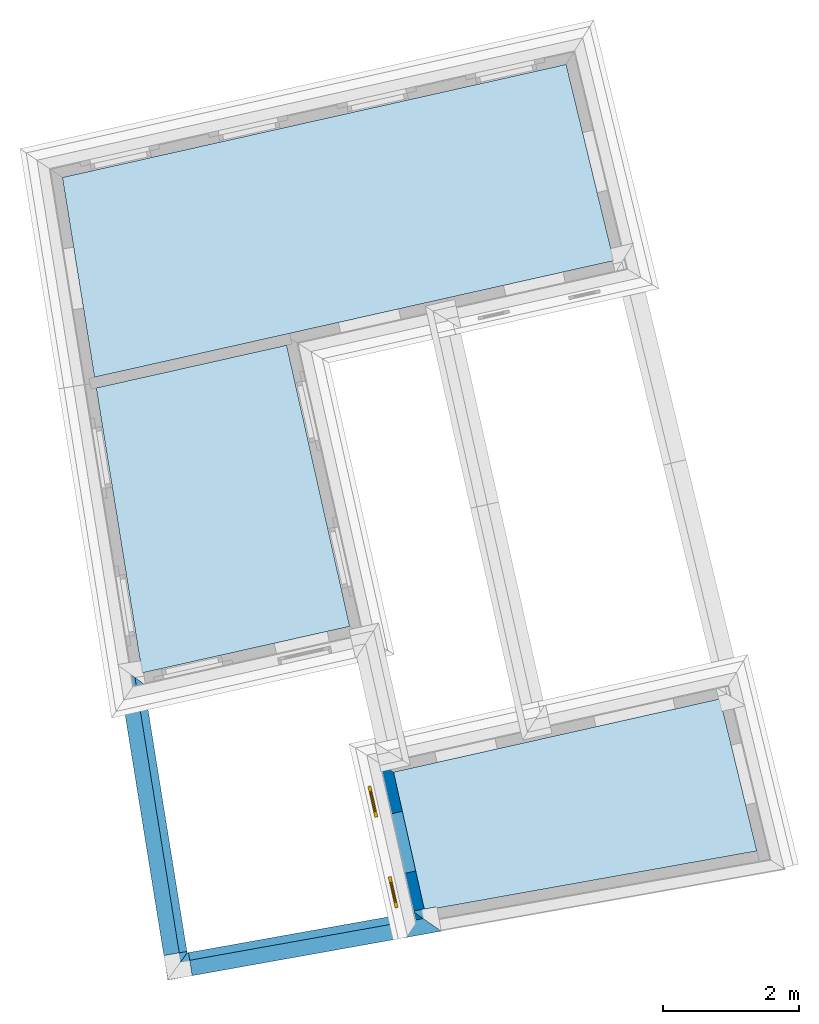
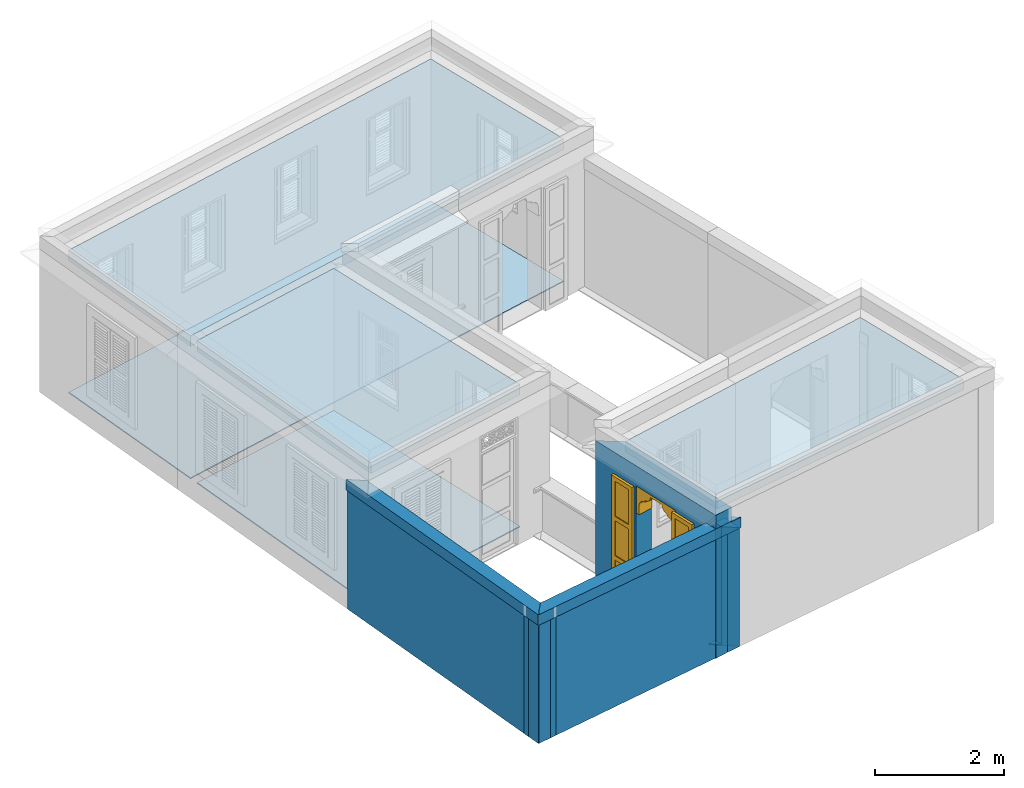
# One storey, part 1 of 15: 8 walls, 5 slabs, 1 door, 1 opening.
"""IFC4 building model written with IfcOpenShell, lengths in metres."""

import ifcopenshell
import ifcopenshell.guid

model = None  # the IFC model being written
_history = None  # IfcOwnerHistory: only IFC2X3 demands one
_inside = {}  # id of a spatial element -> (the spatial element, [elements in it])
_under = {}  # id of a project, library or spatial element -> (it, [spatial elements below it])
_declared = {}  # id of a project -> (the project, [libraries it declares])
_typed = {}  # id of a type object -> (the type object, [elements of that type])
_made_of = {}  # id of a material, layer set ... -> (it, [elements and type objects made of it])


def new_model(schema):
    """Start an empty IFC model of exactly this schema.

    Asked for "IFC4X3", IfcOpenShell would pick the latest addendum, in which some entities
    have other attributes; the version numbers below select the first issue.
    IFC2X3 requires an IfcOwnerHistory on every rooted entity: one is made here for all.
    """
    global model, _history
    if schema == "IFC4X3":
        model = ifcopenshell.file(schema_version=(4, 3, 0, 0))
    else:
        model = ifcopenshell.file(schema=schema)
    _inside.clear()
    _under.clear()
    _declared.clear()
    _typed.clear()
    _made_of.clear()
    _history = None
    if model.schema == "IFC2X3":
        org = make("IfcOrganization", Name="unknown")
        user = make(
            "IfcPersonAndOrganization",
            ThePerson=make("IfcPerson", FamilyName="unknown"),
            TheOrganization=org,
        )
        app = make(
            "IfcApplication",
            ApplicationDeveloper=org,
            Version="unknown",
            ApplicationFullName="unknown",
            ApplicationIdentifier="unknown",
        )
        _history = make(
            "IfcOwnerHistory",
            OwningUser=user,
            OwningApplication=app,
            ChangeAction="ADDED",
            CreationDate=0,
        )
    return model


def make(cls, **values):
    """One entity of the class cls with the attributes given. An attribute that is None is left unset."""
    return model.create_entity(
        cls, **{name: value for name, value in values.items() if value is not None}
    )


def rooted(cls, **values):
    """An entity with a GlobalId (a new one), such as an element, a storey or a relation."""
    return make(cls, GlobalId=ifcopenshell.guid.new(), OwnerHistory=_history, **values)


def si_unit(unit_type, name, prefix=None):
    """IfcSIUnit, for example si_unit("LENGTHUNIT", "METRE", prefix="MILLI")."""
    return make("IfcSIUnit", UnitType=unit_type, Prefix=prefix, Name=name)


def assignment(units):
    """IfcUnitAssignment: the units of a project."""
    return None if units is None else make("IfcUnitAssignment", Units=units)


def point(xyz):
    """IfcCartesianPoint."""
    return None if xyz is None else make("IfcCartesianPoint", Coordinates=xyz)


def direction(xyz):
    """IfcDirection."""
    return None if xyz is None else make("IfcDirection", DirectionRatios=xyz)


def frame(location, z_axis=None, x_axis=None):
    """IfcAxis2Placement3D, a coordinate frame: its origin and axes. An axis left out is left unset."""
    return make(
        "IfcAxis2Placement3D",
        Location=point(location),
        Axis=direction(z_axis),
        RefDirection=direction(x_axis),
    )


def origin():
    """The frame at (0, 0, 0) with its axes left unset."""
    return frame((0.0, 0.0, 0.0))


def origin_with_axes():
    """The frame at (0, 0, 0) with the z axis (0, 0, 1) and the x axis (1, 0, 0) written out."""
    return frame((0.0, 0.0, 0.0), z_axis=(0.0, 0.0, 1.0), x_axis=(1.0, 0.0, 0.0))


def place(relative_to, where):
    """IfcLocalPlacement: puts the frame where relative to a parent placement (None: the world)."""
    return make(
        "IfcLocalPlacement", PlacementRelTo=relative_to, RelativePlacement=where
    )


def context(
    kind, dimensions, precision=None, world=None, true_north=None, identifier=None
):
    """IfcGeometricRepresentationContext, for example the 3D "Model" context."""
    return make(
        "IfcGeometricRepresentationContext",
        ContextIdentifier=identifier,
        ContextType=kind,
        CoordinateSpaceDimension=dimensions,
        Precision=precision,
        WorldCoordinateSystem=world,
        TrueNorth=true_north,
    )


def subcontext(parent, identifier, kind, view, scale=None):
    """IfcGeometricRepresentationSubContext, for example "Body" below "Model"."""
    return make(
        "IfcGeometricRepresentationSubContext",
        ContextIdentifier=identifier,
        ContextType=kind,
        ParentContext=parent,
        TargetScale=scale,
        TargetView=view,
    )


def project(units=None, contexts=None):
    """IfcProject with its units and contexts."""
    return rooted(
        "IfcProject",
        Name="project",
        RepresentationContexts=contexts,
        UnitsInContext=assignment(units),
    )


def spatial(cls, under=None, at=None, **own):
    """A site, building, storey or space (cls), placed at a placement, below another one or the project."""
    s = rooted(cls, ObjectPlacement=at, **own)
    if under is not None:
        _under.setdefault(under.id(), (under, []))[1].append(s)
    return s


def polyline(points):
    """IfcPolyline through the points."""
    return make("IfcPolyline", Points=[point(p) for p in points])


def outline(outer, holes=None, kind="AREA"):
    """IfcArbitraryClosedProfileDef: a profile drawn as a closed curve; with holes, ...WithVoids."""
    if holes is None:
        return make("IfcArbitraryClosedProfileDef", ProfileType=kind, OuterCurve=outer)
    return make(
        "IfcArbitraryProfileDefWithVoids",
        ProfileType=kind,
        OuterCurve=outer,
        InnerCurves=holes,
    )


def extrude(swept, where, along, depth):
    """IfcExtrudedAreaSolid: the profile swept, set in the frame where, extruded along a direction by depth."""
    return make(
        "IfcExtrudedAreaSolid",
        SweptArea=swept,
        Position=where,
        ExtrudedDirection=direction(along),
        Depth=depth,
    )


def clip(a, b, op="DIFFERENCE"):
    """IfcBooleanClippingResult: the solid a cut by the half space b."""
    return make(
        "IfcBooleanClippingResult", Operator=op, FirstOperand=a, SecondOperand=b
    )


def halfspace(plane, agree):
    """IfcHalfSpaceSolid: all space on one side of the plane z = 0 of the frame plane."""
    return make(
        "IfcHalfSpaceSolid",
        BaseSurface=make("IfcPlane", Position=plane),
        AgreementFlag=agree,
    )


def faces_of(points, faces, orient=None, outer=None):
    """IfcFace entities. A face is a list of loops; a loop is a list of indices into points, from 0.

    orient and outer hold one flag for each loop. By default every Orientation is true, the
    first loop of a face is its IfcFaceOuterBound and the others are IfcFaceBound.
    """
    made = []
    for i, loops in enumerate(faces):
        bounds = []
        for j, loop in enumerate(loops):
            is_outer = j == 0 if outer is None else outer[i][j]
            bounds.append(
                make(
                    "IfcFaceOuterBound" if is_outer else "IfcFaceBound",
                    Bound=make("IfcPolyLoop", Polygon=[points[k] for k in loop]),
                    Orientation=True if orient is None else orient[i][j],
                )
            )
        made.append(make("IfcFace", Bounds=bounds))
    return made


def faceted_brep(points, faces, orient=None, outer=None, voids=None):
    """IfcFacetedBrep: a solid bounded by flat faces; with voids (closed shells), ...WithVoids."""
    shared = [point(p) for p in points]
    hull = make("IfcClosedShell", CfsFaces=faces_of(shared, faces, orient, outer))
    if voids is None:
        return make("IfcFacetedBrep", Outer=hull)
    return make(
        "IfcFacetedBrepWithVoids",
        Outer=hull,
        Voids=[
            make(cls, CfsFaces=faces_of(shared, fs, o, b)) for cls, fs, o, b in voids
        ],
    )


def shape(context_of_items, identifier, shape_type, items):
    """IfcShapeRepresentation: the items that make up one representation, for example the "Body"."""
    return make(
        "IfcShapeRepresentation",
        ContextOfItems=context_of_items,
        RepresentationIdentifier=identifier,
        RepresentationType=shape_type,
        Items=items,
    )


def source(mapping_origin, context_of_items, identifier, shape_type, items):
    """IfcRepresentationMap: a shape defined once, which mapped items show again and again."""
    return make(
        "IfcRepresentationMap",
        MappingOrigin=mapping_origin,
        MappedRepresentation=shape(context_of_items, identifier, shape_type, items),
    )


def transform(
    local_origin,
    x_axis=None,
    y_axis=None,
    z_axis=None,
    scale=None,
    scale2=None,
    scale3=None,
    uniform=True,
):
    """IfcCartesianTransformationOperator3D, or its non-uniform kind. x_axis, y_axis, z_axis: its Axis1, 2, 3."""
    if uniform:
        return make(
            "IfcCartesianTransformationOperator3D",
            Axis1=direction(x_axis),
            Axis2=direction(y_axis),
            LocalOrigin=point(local_origin),
            Scale=scale,
            Axis3=direction(z_axis),
        )
    return make(
        "IfcCartesianTransformationOperator3DnonUniform",
        Axis1=direction(x_axis),
        Axis2=direction(y_axis),
        LocalOrigin=point(local_origin),
        Scale=scale,
        Axis3=direction(z_axis),
        Scale2=scale2,
        Scale3=scale3,
    )


def mapped(mapping_source, mapping_target):
    """IfcMappedItem: shows the shape of a source again, moved by a transform."""
    return make(
        "IfcMappedItem", MappingSource=mapping_source, MappingTarget=mapping_target
    )


def material(Name=None, Category=None):
    """IfcMaterial."""
    return make("IfcMaterial", Name=Name, Category=Category)


def layer(
    of_material, thickness, ventilated=None, Name=None, Category=None, Priority=None
):
    """IfcMaterialLayer: one layer of a wall or slab, of a material (None: an air gap)."""
    return make(
        "IfcMaterialLayer",
        Material=of_material,
        LayerThickness=thickness,
        IsVentilated=ventilated,
        Name=Name,
        Category=Category,
        Priority=Priority,
    )


def layer_set(layers, Name=None):
    """IfcMaterialLayerSet."""
    return make("IfcMaterialLayerSet", MaterialLayers=layers, LayerSetName=Name)


def layer_usage(for_layer_set, set_direction, sense, offset, extent=None):
    """IfcMaterialLayerSetUsage: how a layer set lies in its element."""
    return make(
        "IfcMaterialLayerSetUsage",
        ForLayerSet=for_layer_set,
        LayerSetDirection=set_direction,
        DirectionSense=sense,
        OffsetFromReferenceLine=offset,
        ReferenceExtent=extent,
    )


def material_profile(
    of_material, cross_section, Name=None, Category=None, Priority=None
):
    """IfcMaterialProfile: a cross section and its material."""
    return make(
        "IfcMaterialProfile",
        Name=Name,
        Material=of_material,
        Profile=cross_section,
        Priority=Priority,
        Category=Category,
    )


def profile_set(profiles, Name=None, composite=None):
    """IfcMaterialProfileSet."""
    return make(
        "IfcMaterialProfileSet",
        Name=Name,
        MaterialProfiles=profiles,
        CompositeProfile=composite,
    )


def profile_usage(for_profile_set, cardinal=None, extent=None):
    """IfcMaterialProfileSetUsage: how a profile set lies along its element."""
    return make(
        "IfcMaterialProfileSetUsage",
        ForProfileSet=for_profile_set,
        CardinalPoint=cardinal,
        ReferenceExtent=extent,
    )


def made_of(thing, what):
    """Note that an element or type object is made of a material, layer set ...; save() writes the relation."""
    if what is not None:
        _made_of.setdefault(what.id(), (what, []))[1].append(thing)
    return thing


def type_object(cls, material=None, **own):
    """A type object (cls), such as IfcWallType, which elements share."""
    return made_of(rooted(cls, **own), material)


def type_shapes(of_type, sources):
    """Give a type object the sources (RepresentationMaps) that its elements show as mapped items."""
    of_type.RepresentationMaps = sources


def element(
    cls,
    number,
    at=None,
    inside=None,
    cuts=None,
    type_object=None,
    material=None,
    context=None,
    identifier="Body",
    shape_type=None,
    held_by="IfcProductDefinitionShape",
    body=None,
    shapes=None,
    **own,
):
    """One element of the class cls, such as IfcWall. Its Tag is "e" and its number.

    at: its placement. inside: the storey or other place that contains it. cuts: it is an
    opening in that element (IfcRelVoidsElement). A single representation is given by context,
    identifier, shape_type and body (its items); several are given by shapes. held_by: the class
    of the entity that holds the representations. save() writes the other relations.
    """
    e = rooted(cls, Tag="e%d" % number, ObjectPlacement=at, **own)
    if body is not None:
        shapes = [shape(context, identifier, shape_type, body)]
    if shapes is not None:
        e.Representation = make(held_by, Representations=shapes)
    if inside is not None:
        _inside.setdefault(inside.id(), (inside, []))[1].append(e)
    if cuts is not None:
        rooted(
            "IfcRelVoidsElement", RelatingBuildingElement=cuts, RelatedOpeningElement=e
        )
    if type_object is not None:
        _typed.setdefault(type_object.id(), (type_object, []))[1].append(e)
    return made_of(e, material)


def fill(opening, filler):
    """IfcRelFillsElement: the door or window that sits in an opening."""
    return rooted(
        "IfcRelFillsElement",
        RelatingOpeningElement=opening,
        RelatedBuildingElement=filler,
    )


def aggregate(whole, parts):
    """IfcRelAggregates: a whole, such as a stair, and the parts it consists of."""
    return rooted("IfcRelAggregates", RelatingObject=whole, RelatedObjects=parts)


def save(model, path):
    """Write the relations noted so far, then the file.

    IfcRelAggregates (storeys below a building ...), IfcRelContainedInSpatialStructure (elements
    in a storey), IfcRelDefinesByType, IfcRelAssociatesMaterial and IfcRelDeclares: one each for
    every whole, place, type object, material and project.
    """
    for whole, parts in _under.values():
        aggregate(whole, parts)
    for where, things in _inside.values():
        rooted(
            "IfcRelContainedInSpatialStructure",
            RelatedElements=things,
            RelatingStructure=where,
        )
    for kind, things in _typed.values():
        rooted("IfcRelDefinesByType", RelatedObjects=things, RelatingType=kind)
    for what, things in _made_of.values():
        rooted("IfcRelAssociatesMaterial", RelatedObjects=things, RelatingMaterial=what)
    for by, libraries in _declared.values():
        rooted("IfcRelDeclares", RelatingContext=by, RelatedDefinitions=libraries)
    model.write(path)


model = new_model("IFC4")

# Units and contexts
model_context = context("Model", 3, world=origin_with_axes())
body_context = subcontext(model_context, "Body", "Model", "MODEL_VIEW")
ifc_project = project(units=[si_unit("PLANEANGLEUNIT", "RADIAN"), si_unit("MASSUNIT", "GRAM", prefix="KILO"), si_unit("FORCEUNIT", "NEWTON", prefix="KILO"), si_unit("LENGTHUNIT", "METRE"), si_unit("AREAUNIT", "SQUARE_METRE"), si_unit("VOLUMEUNIT", "CUBIC_METRE")], contexts=[model_context, model_context])

# Site, building, storey
site_placement = place(None, origin_with_axes())
site = spatial("IfcSite", under=ifc_project, at=site_placement, Name="Site plot-10", CompositionType="ELEMENT")
building_placement = place(None, origin_with_axes())
building = spatial("IfcBuilding", under=site, at=building_placement, Name="Building plot-10", CompositionType="ELEMENT")
storey_placement = place(None, frame((0.0, 0.0, 2.7), z_axis=(0.0, 0.0, 1.0), x_axis=(1.0, 0.0, 0.0)))
storey = spatial("IfcBuildingStorey", under=building, at=storey_placement, Name="plot-10 1", CompositionType="ELEMENT", Elevation=2.7)

# Slabs
slab_1_placement = place(storey_placement, frame((-20.676451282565, 12.9376014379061, 2.5)))
element("IfcSlab", 1, at=slab_1_placement, inside=storey, Name="My Slab", ObjectType="Slab", PredefinedType="FLOOR", context=body_context, shape_type="SweptSolid", body=[
    extrude(outline(polyline([(0.0, 0.0), (-0.930015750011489, 4.14503842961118), (-3.73667917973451, 3.51531177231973), (-3.06064099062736, -0.686711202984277), (0.0, 0.0)])), origin_with_axes(), (0.0, 0.0, 1.0), 0.2),
])
slab_2_placement = place(storey_placement, frame((-20.676451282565, 12.9376014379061, 0.0)))
element("IfcSlab", 2, at=slab_2_placement, inside=storey, Name="My Slab", ObjectType="Slab", PredefinedType="FLOOR", context=body_context, shape_type="SweptSolid", body=[
    extrude(outline(polyline([(0.0, 0.0), (-0.930015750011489, 4.14503842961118), (-3.73667917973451, 3.51531177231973), (-3.06064099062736, -0.686711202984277), (0.0, 0.0)])), origin_with_axes(), (0.0, 0.0, 1.0), 0.02),
])
slab_3_placement = place(storey_placement, frame((-20.0303675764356, 10.788877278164, 2.5)))
element("IfcSlab", 3, at=slab_3_placement, inside=storey, Name="My Slab", ObjectType="Slab", PredefinedType="FLOOR", context=body_context, shape_type="SweptSolid", body=[
    extrude(outline(polyline([(0.0, 0.0), (0.45741612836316, -2.03868314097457), (5.35658152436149, -1.16285872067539), (4.81271726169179, 1.07982179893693), (0.0, 0.0)])), origin_with_axes(), (0.0, 0.0, 1.0), 0.2),
])
slab_4_placement = place(storey_placement, frame((-16.7842123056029, 18.3285794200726, 2.5)))
element("IfcSlab", 4, at=slab_4_placement, inside=storey, Name="My Slab", ObjectType="Slab", PredefinedType="FLOOR", context=body_context, shape_type="SweptSolid", body=[
    extrude(outline(polyline([(0.0, 0.0), (-0.70172100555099, 2.89361912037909), (-8.12814598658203, 1.22736383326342), (-7.65438044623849, -1.71740129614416), (0.0, 0.0)])), origin_with_axes(), (0.0, 0.0, 1.0), 0.2),
])
slab_5_placement = place(storey_placement, frame((-16.7842123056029, 18.3285794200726, 0.0)))
element("IfcSlab", 5, at=slab_5_placement, inside=storey, Name="My Slab", ObjectType="Slab", PredefinedType="FLOOR", context=body_context, shape_type="SweptSolid", body=[
    extrude(outline(polyline([(0.0, 0.0), (-0.70172100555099, 2.89361912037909), (-8.12814598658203, 1.22736383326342), (-7.65438044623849, -1.71740129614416), (0.0, 0.0)])), origin_with_axes(), (0.0, 0.0, 1.0), 0.02),
])

# Wall, opening, door
ifc_material = material(Name="Masonry")
ifc_layer = layer(ifc_material, 0.33, ventilated=False)
ifc_layer_set = layer_set([ifc_layer], Name="exterior_0.08_0.25")
ifc_layer_usage = layer_usage(ifc_layer_set, "AXIS2", "POSITIVE", -0.25)
wall_type_1 = type_object("IfcWallType", Name="exterior_0.08_0.25", PredefinedType="SOLIDWALL", material=ifc_layer_set)
wall_1_placement = place(storey_placement, frame((-20.1259409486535, 10.8494225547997, 0.0), z_axis=(0.0, 0.0, 1.0), x_axis=(0.218925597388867, -0.975741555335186, 0.0)))
wall_1 = element("IfcWall", 6, at=wall_1_placement, inside=storey, type_object=wall_type_1, material=ifc_layer_usage, Name="exterior", context=body_context, shape_type="SweptSolid", body=[
    extrude(outline(polyline([(0.0799999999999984, 0.0800000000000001), (-0.249999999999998, -0.250000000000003), (2.49593760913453, -0.250000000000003), (2.49593760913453, 0.0799999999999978), (0.0799999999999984, 0.0800000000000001)])), origin_with_axes(), (0.0, 0.0, 1.0), 2.7),
])
opening_placement = place(wall_1_placement, frame((0.672968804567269, 0.0, 0.02)))
opening = element("IfcOpeningElement", 7, at=opening_placement, cuts=wall_1, Name="My Opening", ObjectType="Opening", context=body_context, shape_type="SweptSolid", body=[
    extrude(outline(polyline([(0.0, -0.269999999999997), (0.899999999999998, -0.270000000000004), (0.899999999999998, 1.1), (-2.22044604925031e-16, 1.1), (0.0, -0.269999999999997)])), origin_with_axes(), (0.0, 0.0, 1.0), 2.3),
])
door_type = type_object("IfcDoorType", Name="arch-900x2300", OperationType="SINGLE_SWING_LEFT", PredefinedType="NOTDEFINED")
shared_shape = source(origin(), body_context, "Body", "Brep", [
    faceted_brep([(-0.08, -0.02, 0.08), (-0.08, -0.02, 0.0), (-0.39, -0.02, 0.0), (-0.39, -0.02, 0.08), (-0.47, -0.02, 0.0), (-0.47, -0.02, 0.08), (-0.39, -0.035, 0.08), (-0.08, -0.035, 0.08), (0.0, -0.02, 0.08), (0.0, -0.02, 0.0), (-0.08, -0.066, 0.0), (-0.39, -0.066, 0.0), (-0.47, -0.066, 0.0), (-0.47, -0.066, 0.08), (-0.39, -0.02, 0.743333), (-0.47, -0.02, 0.743333), (-0.39, -0.035, 0.743333), (-0.08, -0.035, 0.743333), (-0.08, -0.02, 0.743333), (0.0, -0.02, 0.743333), (0.0, -0.066, 0.08), (0.0, -0.066, 0.0), (-0.39, -0.066, 0.08), (-0.08, -0.066, 0.08), (-0.47, -0.066, 0.743333), (-0.39, -0.02, 0.823333), (-0.47, -0.02, 0.823333), (0.0, -0.066, 0.743333), (0.0, -0.02, 0.823333), (-0.08, -0.02, 0.823333), (-0.08, -0.051, 0.08), (-0.39, -0.051, 0.08), (-0.39, -0.066, 0.743333), (-0.47, -0.066, 0.823333), (-0.39, -0.02, 1.486667), (-0.47, -0.02, 1.486667), (0.0, -0.066, 0.823333), (-0.08, -0.066, 0.743333), (0.0, -0.02, 1.486667), (-0.08, -0.02, 1.486667), (-0.08, -0.051, 0.743333), (-0.39, -0.051, 0.743333), (-0.39, -0.066, 0.823333), (-0.47, -0.066, 1.486667), (-0.39, -0.035, 0.823333), (-0.08, -0.035, 0.823333), (-0.39, -0.035, 1.486667), (-0.39, -0.02, 1.566667), (-0.47, -0.02, 1.566667), (0.0, -0.066, 1.486667), (-0.08, -0.066, 0.823333), (-0.08, -0.035, 1.486667), (0.0, -0.02, 1.566667), (-0.08, -0.02, 1.566667), (-0.39, -0.066, 1.486667), (-0.47, -0.066, 1.566667), (-0.39, -0.02, 2.23), (-0.47, -0.02, 2.23), (0.0, -0.066, 1.566667), (-0.08, -0.066, 1.486667), (0.0, -0.02, 2.23), (-0.08, -0.02, 2.23), (-0.08, -0.051, 0.823333), (-0.39, -0.051, 0.823333), (-0.39, -0.051, 1.486667), (-0.39, -0.066, 1.566667), (-0.47, -0.066, 2.23), (-0.39, -0.035, 1.566667), (-0.08, -0.035, 1.566667), (-0.39, -0.035, 2.23), (-0.39, -0.02, 2.31), (-0.47, -0.02, 2.31), (0.0, -0.066, 2.23), (-0.08, -0.066, 1.566667), (-0.08, -0.051, 1.486667), (-0.08, -0.035, 2.23), (0.0, -0.02, 2.31), (-0.08, -0.02, 2.31), (-0.39, -0.066, 2.23), (-0.47, -0.066, 2.31), (-0.39, -0.066, 2.31), (0.0, -0.066, 2.31), (-0.08, -0.066, 2.23), (-0.08, -0.066, 2.31), (-0.08, -0.051, 1.566667), (-0.39, -0.051, 1.566667), (-0.39, -0.051, 2.23), (-0.08, -0.051, 2.23), (1.29, -0.02, 0.08), (1.29, -0.02, 0.0), (0.98, -0.02, 0.0), (0.98, -0.02, 0.08), (1.37, -0.02, 0.08), (1.37, -0.02, 0.0), (0.98, -0.035, 0.08), (1.29, -0.035, 0.08), (0.9, -0.02, 0.0), (0.9, -0.02, 0.08), (1.29, -0.066, 0.0), (0.98, -0.066, 0.0), (1.37, -0.066, 0.08), (1.37, -0.066, 0.0), (1.37, -0.02, 0.743333), (1.29, -0.02, 0.743333), (1.29, -0.035, 0.743333), (0.98, -0.035, 0.743333), (0.98, -0.02, 0.743333), (0.9, -0.02, 0.743333), (0.9, -0.066, 0.0), (0.9, -0.066, 0.08), (0.98, -0.066, 0.08), (1.29, -0.066, 0.08), (1.37, -0.066, 0.743333), (1.37, -0.02, 0.823333), (1.29, -0.02, 0.823333), (0.9, -0.066, 0.743333), (0.98, -0.02, 0.823333), (0.9, -0.02, 0.823333), (1.29, -0.051, 0.08), (0.98, -0.051, 0.08), (1.29, -0.066, 0.743333), (1.37, -0.066, 0.823333), (1.37, -0.02, 1.486667), (1.29, -0.02, 1.486667), (0.9, -0.066, 0.823333), (0.98, -0.066, 0.743333), (0.98, -0.02, 1.486667), (0.9, -0.02, 1.486667), (0.98, -0.051, 0.743333), (1.29, -0.051, 0.743333), (1.29, -0.066, 0.823333), (1.37, -0.066, 1.486667), (0.98, -0.035, 0.823333), (1.29, -0.035, 0.823333), (1.29, -0.035, 1.486667), (1.37, -0.02, 1.566667), (1.29, -0.02, 1.566667), (0.9, -0.066, 1.486667), (0.98, -0.066, 0.823333), (0.98, -0.035, 1.486667), (0.98, -0.02, 1.566667), (0.9, -0.02, 1.566667), (1.29, -0.066, 1.486667), (1.37, -0.066, 1.566667), (1.37, -0.02, 2.23), (1.29, -0.02, 2.23), (0.9, -0.066, 1.566667), (0.98, -0.066, 1.486667), (0.98, -0.02, 2.23), (0.9, -0.02, 2.23), (1.29, -0.051, 0.823333), (0.98, -0.051, 0.823333), (1.29, -0.051, 1.486667), (1.29, -0.066, 1.566667), (1.37, -0.066, 2.23), (0.98, -0.035, 1.566667), (1.29, -0.035, 1.566667), (1.29, -0.035, 2.23), (1.37, -0.02, 2.31), (1.29, -0.02, 2.31), (0.9, -0.066, 2.23), (0.98, -0.066, 1.566667), (0.98, -0.051, 1.486667), (0.98, -0.035, 2.23), (0.98, -0.02, 2.31), (0.9, -0.02, 2.31), (1.29, -0.066, 2.23), (1.37, -0.066, 2.31), (1.29, -0.066, 2.31), (0.9, -0.066, 2.31), (0.98, -0.066, 2.23), (0.98, -0.066, 2.31), (1.29, -0.051, 1.566667), (0.98, -0.051, 1.566667), (1.29, -0.051, 2.23), (0.98, -0.051, 2.23), (0.9, 0.03, 1.78), (0.9, 0.03, 1.95), (0.84, 0.03, 1.95), (0.84, 0.03, 1.78), (0.84, 0.3, 1.95), (0.84, 0.3, 1.78), (0.9, 0.03, 2.12), (0.829, 0.03, 2.004), (0.9, 0.3, 1.78), (0.9, 0.3, 1.95), (0.829, 0.3, 2.004), (0.799, 0.03, 2.049), (0.9, 0.3, 2.12), (0.799, 0.3, 2.049), (0.754, 0.03, 2.079), (0.9, 0.3, 2.29), (0.9, 0.03, 2.29), (0.754, 0.3, 2.079), (0.7, 0.03, 2.09), (0.7, 0.03, 2.12), (0.654, 0.03, 2.129), (0.58, 0.3, 2.29), (0.58, 0.03, 2.29), (0.7, 0.3, 2.12), (0.654, 0.3, 2.129), (0.7, 0.3, 2.09), (0.615, 0.03, 2.155), (0.589, 0.3, 2.194), (0.58, 0.3, 2.24), (0.58, 0.03, 2.24), (0.589, 0.03, 2.194), (0.615, 0.3, 2.155), (0.06, 0.03, 1.78), (0.06, 0.03, 1.95), (0.0, 0.03, 1.95), (0.0, 0.03, 1.78), (0.06, 0.3, 1.78), (0.06, 0.3, 1.95), (0.071, 0.03, 2.004), (0.0, 0.03, 2.12), (0.0, 0.3, 1.95), (0.0, 0.3, 1.78), (0.071, 0.3, 2.004), (0.101, 0.03, 2.049), (0.0, 0.3, 2.12), (0.101, 0.3, 2.049), (0.146, 0.03, 2.079), (0.0, 0.03, 2.29), (0.0, 0.3, 2.29), (0.146, 0.3, 2.079), (0.2, 0.03, 2.12), (0.2, 0.03, 2.09), (0.246, 0.03, 2.129), (0.32, 0.03, 2.29), (0.32, 0.3, 2.29), (0.246, 0.3, 2.129), (0.2, 0.3, 2.12), (0.2, 0.3, 2.09), (0.285, 0.03, 2.155), (0.32, 0.3, 2.24), (0.311, 0.3, 2.194), (0.311, 0.03, 2.194), (0.32, 0.03, 2.24), (0.285, 0.3, 2.155)], [[[0, 1, 2, 3]], [[4, 5, 3, 2]], [[0, 3, 6, 7]], [[1, 0, 8, 9]], [[2, 1, 10, 11]], [[5, 4, 12, 13]], [[14, 3, 5, 15]], [[4, 2, 11, 12]], [[3, 14, 16, 6]], [[6, 16, 17, 7]], [[18, 0, 7, 17]], [[0, 18, 19, 8]], [[9, 8, 20, 21]], [[1, 9, 21, 10]], [[22, 11, 10, 23]], [[13, 12, 11, 22]], [[15, 5, 13, 24]], [[25, 14, 15, 26]], [[14, 18, 17, 16]], [[8, 19, 27, 20]], [[28, 19, 18, 29]], [[23, 10, 21, 20]], [[22, 23, 30, 31]], [[22, 32, 24, 13]], [[26, 15, 24, 33]], [[29, 18, 14, 25]], [[34, 25, 26, 35]], [[19, 28, 36, 27]], [[20, 27, 37, 23]], [[38, 28, 29, 39]], [[23, 37, 40, 30]], [[41, 31, 30, 40]], [[32, 22, 31, 41]], [[32, 42, 33, 24]], [[35, 26, 33, 43]], [[29, 25, 44, 45]], [[25, 34, 46, 44]], [[47, 34, 35, 48]], [[28, 38, 49, 36]], [[27, 36, 50, 37]], [[39, 29, 45, 51]], [[52, 38, 39, 53]], [[37, 32, 41, 40]], [[37, 50, 42, 32]], [[42, 54, 43, 33]], [[48, 35, 43, 55]], [[44, 46, 51, 45]], [[34, 39, 51, 46]], [[34, 47, 53, 39]], [[56, 47, 48, 57]], [[38, 52, 58, 49]], [[36, 49, 59, 50]], [[60, 52, 53, 61]], [[42, 50, 62, 63]], [[54, 42, 63, 64]], [[54, 65, 55, 43]], [[57, 48, 55, 66]], [[53, 47, 67, 68]], [[47, 56, 69, 67]], [[70, 56, 57, 71]], [[52, 60, 72, 58]], [[49, 58, 73, 59]], [[50, 59, 74, 62]], [[61, 53, 68, 75]], [[76, 60, 61, 77]], [[64, 63, 62, 74]], [[59, 54, 64, 74]], [[65, 54, 59, 73]], [[65, 78, 66, 55]], [[71, 57, 66, 79]], [[67, 69, 75, 68]], [[56, 61, 75, 69]], [[77, 61, 56, 70]], [[70, 71, 79, 80]], [[60, 76, 81, 72]], [[58, 72, 82, 73]], [[76, 77, 83, 81]], [[65, 73, 84, 85]], [[78, 65, 85, 86]], [[78, 80, 79, 66]], [[77, 70, 80, 83]], [[72, 81, 83, 82]], [[73, 82, 87, 84]], [[86, 85, 84, 87]], [[82, 78, 86, 87]], [[82, 83, 80, 78]], [[88, 89, 90, 91]], [[89, 88, 92, 93]], [[94, 95, 88, 91]], [[96, 97, 91, 90]], [[98, 99, 90, 89]], [[100, 101, 93, 92]], [[102, 92, 88, 103]], [[101, 98, 89, 93]], [[95, 104, 103, 88]], [[94, 105, 104, 95]], [[105, 94, 91, 106]], [[97, 107, 106, 91]], [[108, 109, 97, 96]], [[99, 108, 96, 90]], [[110, 99, 98, 111]], [[111, 98, 101, 100]], [[112, 100, 92, 102]], [[113, 102, 103, 114]], [[104, 105, 106, 103]], [[109, 115, 107, 97]], [[116, 106, 107, 117]], [[109, 108, 99, 110]], [[118, 119, 110, 111]], [[100, 112, 120, 111]], [[121, 112, 102, 113]], [[114, 103, 106, 116]], [[122, 113, 114, 123]], [[115, 124, 117, 107]], [[110, 125, 115, 109]], [[126, 116, 117, 127]], [[119, 128, 125, 110]], [[128, 119, 118, 129]], [[129, 118, 111, 120]], [[112, 121, 130, 120]], [[131, 121, 113, 122]], [[132, 133, 114, 116]], [[133, 134, 123, 114]], [[135, 122, 123, 136]], [[124, 137, 127, 117]], [[125, 138, 124, 115]], [[139, 132, 116, 126]], [[140, 126, 127, 141]], [[128, 129, 120, 125]], [[120, 130, 138, 125]], [[121, 131, 142, 130]], [[143, 131, 122, 135]], [[132, 139, 134, 133]], [[134, 139, 126, 123]], [[126, 140, 136, 123]], [[144, 135, 136, 145]], [[137, 146, 141, 127]], [[138, 147, 137, 124]], [[148, 140, 141, 149]], [[150, 151, 138, 130]], [[152, 150, 130, 142]], [[131, 143, 153, 142]], [[154, 143, 135, 144]], [[155, 156, 136, 140]], [[156, 157, 145, 136]], [[158, 144, 145, 159]], [[146, 160, 149, 141]], [[147, 161, 146, 137]], [[151, 162, 147, 138]], [[163, 155, 140, 148]], [[164, 148, 149, 165]], [[162, 151, 150, 152]], [[162, 152, 142, 147]], [[161, 147, 142, 153]], [[143, 154, 166, 153]], [[167, 154, 144, 158]], [[155, 163, 157, 156]], [[157, 163, 148, 145]], [[159, 145, 148, 164]], [[168, 167, 158, 159]], [[160, 169, 165, 149]], [[161, 170, 160, 146]], [[169, 171, 164, 165]], [[172, 173, 161, 153]], [[174, 172, 153, 166]], [[154, 167, 168, 166]], [[171, 168, 159, 164]], [[170, 171, 169, 160]], [[173, 175, 170, 161]], [[175, 173, 172, 174]], [[175, 174, 166, 170]], [[166, 168, 171, 170]], [[176, 177, 178, 179]], [[180, 181, 179, 178]], [[177, 182, 183, 178]], [[177, 176, 184, 185]], [[181, 184, 176, 179]], [[181, 180, 185, 184]], [[186, 180, 178, 183]], [[182, 187, 183]], [[182, 177, 185, 188]], [[180, 186, 188, 185]], [[189, 186, 183, 187]], [[182, 190, 187]], [[188, 191, 192, 182]], [[188, 186, 189]], [[193, 189, 187, 190]], [[194, 190, 182, 195]], [[182, 192, 196, 195]], [[192, 191, 197, 198]], [[199, 200, 191, 188]], [[188, 189, 193]], [[201, 193, 190, 194]], [[199, 201, 194, 195]], [[200, 199, 195, 196]], [[192, 202, 196]], [[191, 203, 204, 197]], [[192, 198, 205, 206]], [[207, 191, 200]], [[199, 188, 193, 201]], [[207, 200, 196, 202]], [[192, 206, 202]], [[204, 203, 206, 205]], [[203, 191, 207]], [[203, 207, 202, 206]], [[208, 209, 210, 211]], [[209, 208, 212, 213]], [[209, 214, 215, 210]], [[211, 210, 216, 217]], [[208, 211, 217, 212]], [[217, 216, 213, 212]], [[214, 209, 213, 218]], [[214, 219, 215]], [[220, 216, 210, 215]], [[216, 220, 218, 213]], [[219, 214, 218, 221]], [[219, 222, 215]], [[215, 223, 224, 220]], [[221, 218, 220]], [[222, 219, 221, 225]], [[226, 215, 222, 227]], [[226, 228, 223, 215]], [[229, 230, 224, 223]], [[220, 224, 231, 232]], [[225, 221, 220]], [[227, 222, 225, 233]], [[226, 227, 233, 232]], [[228, 226, 232, 231]], [[228, 234, 223]], [[230, 235, 236, 224]], [[237, 238, 229, 223]], [[231, 224, 239]], [[233, 225, 220, 232]], [[234, 228, 231, 239]], [[234, 237, 223]], [[238, 237, 236, 235]], [[239, 224, 236]], [[237, 234, 239, 236]], [[238, 235, 204, 205]], [[235, 230, 197, 204]], [[229, 238, 205, 198]], [[230, 229, 198, 197]]]),
])
type_shapes(door_type, [shared_shape])
door_placement = place(storey_placement, frame((-20.24206107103, 10.1336690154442, 0.02), z_axis=(0.0, 0.0, 1.0), x_axis=(0.197033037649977, -0.878167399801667, 0.0)))
door = element("IfcDoor", 8, at=door_placement, inside=storey, type_object=door_type, Name="circulation sahn door", OverallHeight=2.3, OverallWidth=0.9, context=body_context, shape_type="MappedRepresentation", body=[
    mapped(shared_shape, transform((0.0, 0.0, 0.0), scale=1.0)),
])
fill(opening, door)

# Walls
ifc_material_profile_1 = material_profile(None, outline(polyline([(0.25, 0.0), (0.25, 2.245), (0.05, 2.245), (0.05, 0.02), (-0.08, 0.02), (-0.08, 0.0), (0.25, 0.0)])))
ifc_profile_set_1 = profile_set([ifc_material_profile_1])
ifc_profile_usage_1 = profile_usage(ifc_profile_set_1)
wall_type_2 = type_object("IfcWallType", Name="parapet street_0", PredefinedType="PARAPET", material=ifc_profile_set_1)
wall_2_placement = place(storey_placement, frame((-22.9804271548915, 7.04407076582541, 0.0), z_axis=(-0.158841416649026, 0.987304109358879, 0.0), x_axis=(-0.987304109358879, -0.158841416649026, 0.0)))
element("IfcWall", 9, at=wall_2_placement, inside=storey, type_object=wall_type_2, material=ifc_profile_usage_1, Name="parapet street_0", context=body_context, shape_type="Clipping", body=[
    clip(clip(extrude(outline(polyline([(0.25, 0.0), (0.25, 2.245), (0.05, 2.245), (0.05, 0.02), (-0.08, 0.02), (-0.08, 0.0), (0.25, 0.0)])), origin_with_axes(), (0.0, 0.0, 1.0), 6.17585217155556), halfspace(frame((0.0, 0.0, 5.17585217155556), z_axis=(0.707106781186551, 0.0, -0.707106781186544), x_axis=(0.0, 1.0, 0.0)), True)), halfspace(frame((0.0, 0.0, 1.0), z_axis=(-0.707106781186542, 0.0, -0.707106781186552), x_axis=(0.0, 1.0, 0.0)), False)),
])
ifc_profile_usage_2 = profile_usage(ifc_profile_set_1)
wall_3_placement = place(storey_placement, frame((-22.0532340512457, 8.20610043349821, 0.0), z_axis=(-0.987304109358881, -0.158841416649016, 0.0), x_axis=(0.158841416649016, -0.987304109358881, 0.0)))
element("IfcWall", 10, at=wall_3_placement, inside=storey, type_object=wall_type_2, material=ifc_profile_usage_2, Name="parapet street_0", context=body_context, shape_type="Clipping", body=[
    clip(clip(extrude(outline(polyline([(0.25, 0.0), (0.25, 2.245), (0.05, 2.245), (0.05, 0.02), (-0.08, 0.02), (-0.08, 0.0), (0.25, 0.0)])), origin_with_axes(), (0.0, 0.0, 1.0), 2.1), halfspace(frame((0.0, 0.0, 1.1), z_axis=(0.707106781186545, 0.0, -0.70710678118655), x_axis=(0.0, 1.0, 0.0)), True)), halfspace(frame((0.0, 0.0, 1.0), z_axis=(1.27103528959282e-15, 0.0, -1.0), x_axis=(0.0, 1.0, 0.0)), False)),
])
ifc_material_profile_2 = material_profile(None, outline(polyline([(0.265, 2.245), (0.265, 2.445), (0.035, 2.445), (0.035, 2.245), (0.265, 2.245)])))
ifc_profile_set_2 = profile_set([ifc_material_profile_2])
ifc_profile_usage_3 = profile_usage(ifc_profile_set_2)
wall_type_3 = type_object("IfcWallType", Name="parapet street_1", PredefinedType="PARAPET", material=ifc_profile_set_2)
wall_4_placement = place(storey_placement, frame((-22.9804271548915, 7.04407076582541, 0.0), z_axis=(-0.158841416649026, 0.987304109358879, 0.0), x_axis=(-0.987304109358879, -0.158841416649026, 0.0)))
element("IfcWall", 11, at=wall_4_placement, inside=storey, type_object=wall_type_3, material=ifc_profile_usage_3, Name="parapet street_1", context=body_context, shape_type="Clipping", body=[
    clip(clip(extrude(outline(polyline([(0.265, 2.245), (0.265, 2.445), (0.035, 2.445), (0.035, 2.245), (0.265, 2.245)])), origin_with_axes(), (0.0, 0.0, 1.0), 6.17585217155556), halfspace(frame((0.0, 0.0, 5.17585217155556), z_axis=(0.707106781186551, 0.0, -0.707106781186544), x_axis=(0.0, 1.0, 0.0)), True)), halfspace(frame((0.0, 0.0, 1.0), z_axis=(-0.707106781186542, 0.0, -0.707106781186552), x_axis=(0.0, 1.0, 0.0)), False)),
])
ifc_material_profile_3 = material_profile(None, outline(polyline([(0.25, 0.0), (0.25, 2.245), (0.05, 2.245), (0.05, 0.02), (-0.08, 0.02), (-0.08, 0.0), (0.25, 0.0)])))
ifc_profile_set_3 = profile_set([ifc_material_profile_3])
ifc_profile_usage_4 = profile_usage(ifc_profile_set_3)
wall_type_4 = type_object("IfcWallType", Name="parapet party_0", PredefinedType="PARAPET", material=ifc_profile_set_3)
wall_5_placement = place(storey_placement, frame((-22.9632883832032, 7.04698116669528, 0.0), z_axis=(-0.175980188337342, 0.984393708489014, 0.0), x_axis=(-0.984393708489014, -0.175980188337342, 0.0)))
element("IfcWall", 12, at=wall_5_placement, inside=storey, type_object=wall_type_4, material=ifc_profile_usage_4, Name="parapet party_0", context=body_context, shape_type="Clipping", body=[
    clip(clip(extrude(outline(polyline([(0.25, 0.0), (0.25, 2.245), (0.05, 2.245), (0.05, 0.02), (-0.08, 0.02), (-0.08, 0.0), (0.25, 0.0)])), origin_with_axes(), (0.0, 0.0, 1.0), 2.1), halfspace(frame((0.0, 0.0, 1.1), z_axis=(-5.0532154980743e-16, 0.0, -1.0), x_axis=(0.0, 1.0, 0.0)), True)), halfspace(frame((0.0, 0.0, 1.0), z_axis=(-0.707106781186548, 0.0, -0.707106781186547), x_axis=(0.0, 1.0, 0.0)), False)),
])
ifc_profile_usage_5 = profile_usage(ifc_profile_set_3)
wall_6_placement = place(storey_placement, frame((-18.6498540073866, 8.83394808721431, 0.0), z_axis=(-0.984393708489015, -0.175980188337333, 0.0), x_axis=(0.175980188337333, -0.984393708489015, 0.0)))
element("IfcWall", 13, at=wall_6_placement, inside=storey, type_object=wall_type_4, material=ifc_profile_usage_5, Name="parapet party_0", context=body_context, shape_type="Clipping", body=[
    clip(clip(extrude(outline(polyline([(0.25, 0.0), (0.25, 2.245), (0.05, 2.245), (0.05, 0.02), (-0.08, 0.02), (-0.08, 0.0), (0.25, 0.0)])), origin_with_axes(), (0.0, 0.0, 1.0), 5.56058843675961), halfspace(frame((0.0, 0.0, 4.56058843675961), z_axis=(0.70710678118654, 0.0, -0.707106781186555), x_axis=(0.0, 1.0, 0.0)), True)), halfspace(frame((0.0, 0.0, 1.0), z_axis=(-0.707106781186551, 0.0, -0.707106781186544), x_axis=(0.0, 1.0, 0.0)), False)),
])
ifc_profile_usage_6 = profile_usage(ifc_profile_set_3)
wall_7_placement = place(storey_placement, frame((-19.8278259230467, 9.74080097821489, 0.0), z_axis=(0.175980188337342, -0.984393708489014, 0.0), x_axis=(0.984393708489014, 0.175980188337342, 0.0)))
element("IfcWall", 14, at=wall_7_placement, inside=storey, type_object=wall_type_4, material=ifc_profile_usage_6, Name="parapet party_0", context=body_context, shape_type="Clipping", body=[
    clip(clip(extrude(outline(polyline([(0.25, 0.0), (0.25, 2.245), (0.05, 2.245), (0.05, 0.02), (-0.08, 0.02), (-0.08, 0.0), (0.25, 0.0)])), origin_with_axes(), (0.0, 0.0, 1.0), 2.1), halfspace(frame((0.0, 0.0, 1.1), z_axis=(0.707106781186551, 0.0, -0.707106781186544), x_axis=(0.0, 1.0, 0.0)), True)), halfspace(frame((0.0, 0.0, 1.0), z_axis=(-9.49410759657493e-16, 0.0, -1.0), x_axis=(0.0, 1.0, 0.0)), False)),
])
ifc_material_profile_4 = material_profile(None, outline(polyline([(0.265, 2.245), (0.265, 2.445), (0.035, 2.445), (0.035, 2.245), (0.265, 2.245)])))
ifc_profile_set_4 = profile_set([ifc_material_profile_4])
ifc_profile_usage_7 = profile_usage(ifc_profile_set_4)
wall_type_5 = type_object("IfcWallType", Name="parapet party_1", PredefinedType="PARAPET", material=ifc_profile_set_4)
wall_8_placement = place(storey_placement, frame((-18.6498540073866, 8.83394808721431, 0.0), z_axis=(-0.984393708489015, -0.175980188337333, 0.0), x_axis=(0.175980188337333, -0.984393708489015, 0.0)))
element("IfcWall", 15, at=wall_8_placement, inside=storey, type_object=wall_type_5, material=ifc_profile_usage_7, Name="parapet party_1", context=body_context, shape_type="Clipping", body=[
    clip(clip(extrude(outline(polyline([(0.265, 2.245), (0.265, 2.445), (0.035, 2.445), (0.035, 2.245), (0.265, 2.245)])), origin_with_axes(), (0.0, 0.0, 1.0), 5.56058843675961), halfspace(frame((0.0, 0.0, 4.56058843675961), z_axis=(0.70710678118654, 0.0, -0.707106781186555), x_axis=(0.0, 1.0, 0.0)), True)), halfspace(frame((0.0, 0.0, 1.0), z_axis=(-0.707106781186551, 0.0, -0.707106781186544), x_axis=(0.0, 1.0, 0.0)), False)),
])

save(model, "model.ifc")
